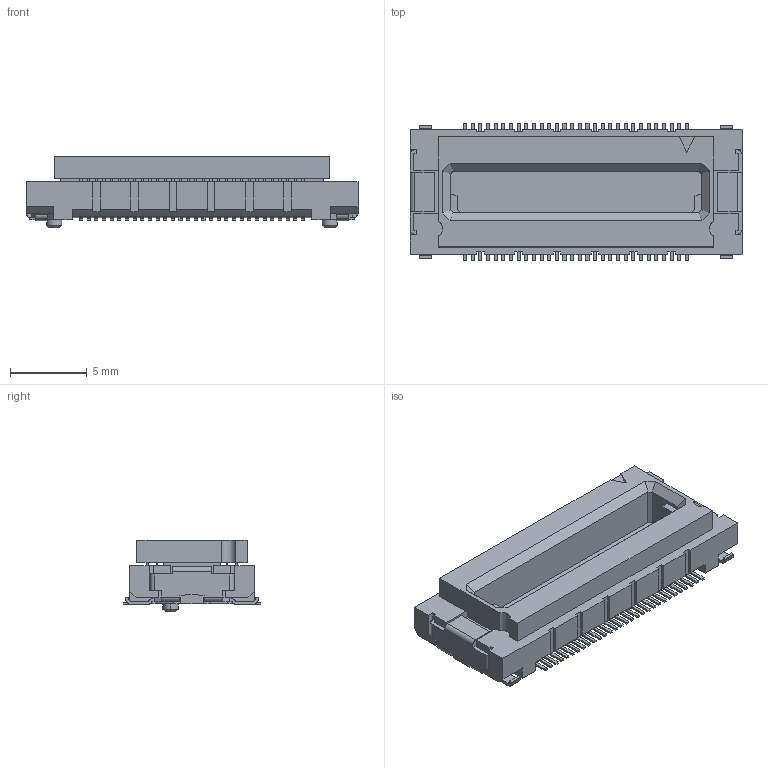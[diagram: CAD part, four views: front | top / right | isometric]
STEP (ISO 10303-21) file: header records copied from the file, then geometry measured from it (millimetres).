
FILE_DESCRIPTION(('Creo Elements/Direct Modeling STEP Export'),'2;1');
FILE_NAME('P39563_DY01-060S.stp','2017-08-10T14:28:35',(''),(''),'Creo Elements/Direct Modeling STEP processor for AP214 (Solid Model)','Creo Elements/Direct Modeling 19.0F 14-Feb-2017 (C) Parametric Technology GmbH','');
FILE_SCHEMA(('AUTOMOTIVE_DESIGN { 1 0 10303 214 1 1 1 1 }'));
Length unit declared in the file: millimetre
Products named in the file (2): DY01-060S
Assembly tree (1 placements, depth 2):
  DY01-060S
    DY01-060S
Bounding box: 21.7 x 9 x 4.65 mm (x, y, z)
Volume: 456.2 mm3; surface area: 982.9 mm2
Topology: 1 solids, 1 shells, 1947 faces, 5447 edges, 3626 vertices
Faces by surface type: plane 1654, cylinder 289, cone 4
Entity records: 61928 total; most frequent: CARTESIAN_POINT 10930, ORIENTED_EDGE 10894, DIRECTION 9811, EDGE_CURVE 5447, VECTOR 4797, LINE 4797, VERTEX_POINT 3626, AXIS2_PLACEMENT_3D 2507
